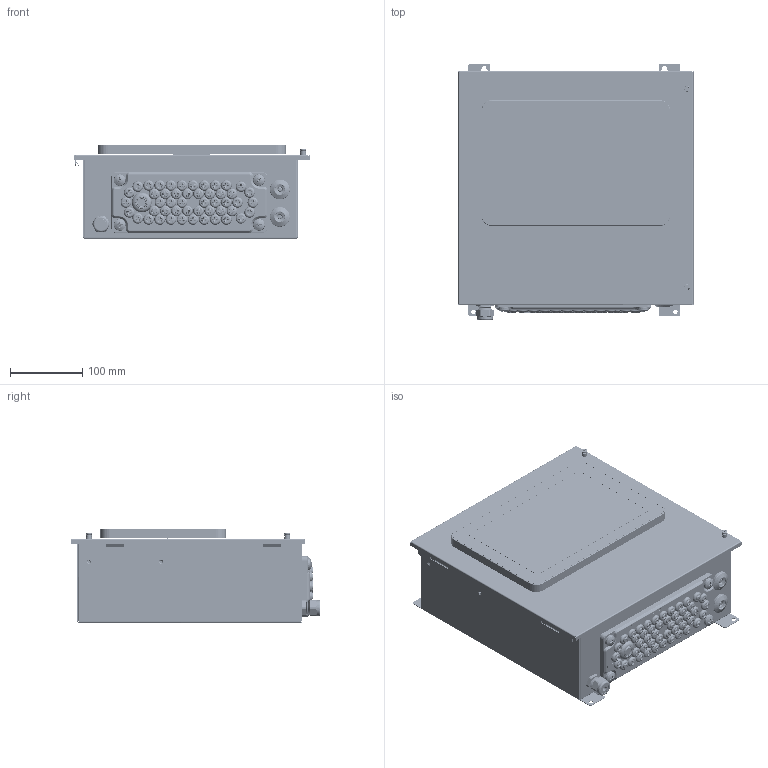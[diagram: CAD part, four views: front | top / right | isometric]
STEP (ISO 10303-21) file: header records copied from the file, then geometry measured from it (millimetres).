
FILE_DESCRIPTION(/* description */ (''),/* implementation_level */ '2;1');
FILE_NAME(/* name */ 'C:/Temp/STEP/FX-SPIDER-40-10.step',/* time_stamp */ '2020-04-03T14:08:37+03:00',/* author */ (''),/* organization */ (''),/* preprocessor_version */ 'ST-DEVELOPER v18',/* originating_system */ 'Autodesk Translation Framework v8.12.0.6',/* authorisation */ '');
FILE_SCHEMA (('AUTOMOTIVE_DESIGN { 1 0 10303 214 3 1 1 }'));
Products named in the file (1): FX-SPIDER-40-10
Bounding box: 326 x 355.89 x 131.1 mm (x, y, z)
Volume: 577298.5 mm3; surface area: 1031388.2 mm2
Topology: 50 solids, 83 shells, 3596 faces, 9410 edges, 6303 vertices
Faces by surface type: plane 1813, cylinder 645, torus 444, bspline 404, cone 262, sphere 28
Full cylindrical faces by diameter (mm): 0.1 x5, 1.6 x2, 2.5 x16, 3 x4, 3.3 x2, 3.5 x5, 3.57 x2, 3.988 x1, 4 x11, 4.8 x2, 5 x4, 5.3 x2, 5.4 x22, 5.742 x2, 5.888 x2, 5.893 x1, 6 x8, 6.38 x2, 6.4 x2, 6.5 x49, 6.858 x2, 7.065 x2, 7.457 x2, 7.85 x6, 8 x6, 9 x4, 9.2 x4, 9.5 x4, 11.5 x49, 12 x4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
Entity records: 134749 total; most frequent: CARTESIAN_POINT 43784, ORIENTED_EDGE 18638, DIRECTION 18493, EDGE_CURVE 9391, AXIS2_PLACEMENT_3D 7002, VERTEX_POINT 6303, LINE 4489, VECTOR 4489
